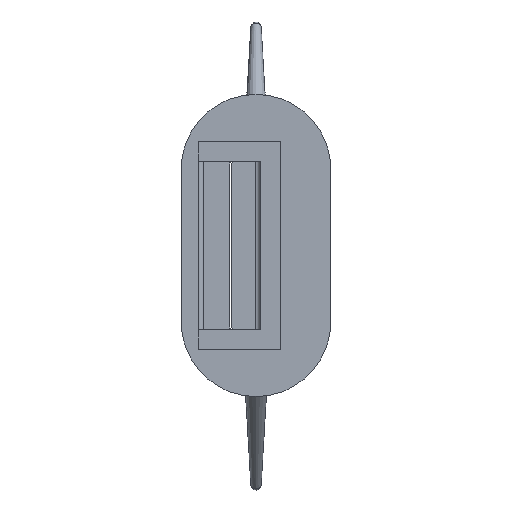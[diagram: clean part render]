
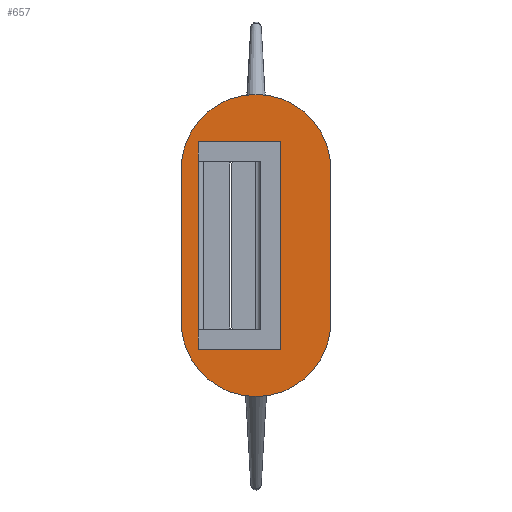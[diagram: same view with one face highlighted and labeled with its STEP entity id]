
A CAD part, left-side view. The second image highlights one B-rep face of the part: STEP entity #657.
In plain terms, the highlighted planar face has unit normal (-1, 0, 0).
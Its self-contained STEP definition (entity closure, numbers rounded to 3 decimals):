
#26=FACE_BOUND('',#111,.T.);
#44=PLANE('',#725);
#71=FACE_OUTER_BOUND('',#110,.T.);
#110=EDGE_LOOP('',(#518,#519,#520,#521));
#111=EDGE_LOOP('',(#522,#523,#524,#525,#526,#527));
#148=LINE('',#1032,#204);
#162=LINE('',#1069,#218);
#164=LINE('',#1091,#220);
#165=LINE('',#1093,#221);
#166=LINE('',#1095,#222);
#167=LINE('',#1097,#223);
#168=LINE('',#1098,#224);
#169=LINE('',#1099,#225);
#204=VECTOR('',#811,10.);
#218=VECTOR('',#845,10.);
#220=VECTOR('',#855,10.);
#221=VECTOR('',#856,10.);
#222=VECTOR('',#857,10.);
#223=VECTOR('',#858,10.);
#224=VECTOR('',#859,10.);
#225=VECTOR('',#860,10.);
#256=CIRCLE('',#708,7.5);
#264=CIRCLE('',#723,7.5);
#296=VERTEX_POINT('',#1024);
#297=VERTEX_POINT('',#1026);
#298=VERTEX_POINT('',#1030);
#303=VERTEX_POINT('',#1044);
#310=VERTEX_POINT('',#1064);
#311=VERTEX_POINT('',#1068);
#312=VERTEX_POINT('',#1090);
#313=VERTEX_POINT('',#1092);
#314=VERTEX_POINT('',#1094);
#315=VERTEX_POINT('',#1096);
#364=EDGE_CURVE('',#296,#297,#256,.T.);
#367=EDGE_CURVE('',#296,#298,#148,.T.);
#385=EDGE_CURVE('',#311,#297,#162,.T.);
#387=EDGE_CURVE('',#311,#298,#264,.T.);
#389=EDGE_CURVE('',#312,#310,#164,.T.);
#390=EDGE_CURVE('',#313,#312,#165,.T.);
#391=EDGE_CURVE('',#313,#314,#166,.T.);
#392=EDGE_CURVE('',#315,#314,#167,.T.);
#393=EDGE_CURVE('',#303,#315,#168,.T.);
#394=EDGE_CURVE('',#310,#303,#169,.T.);
#518=ORIENTED_EDGE('',*,*,#364,.F.);
#519=ORIENTED_EDGE('',*,*,#367,.T.);
#520=ORIENTED_EDGE('',*,*,#387,.F.);
#521=ORIENTED_EDGE('',*,*,#385,.T.);
#522=ORIENTED_EDGE('',*,*,#389,.F.);
#523=ORIENTED_EDGE('',*,*,#390,.F.);
#524=ORIENTED_EDGE('',*,*,#391,.T.);
#525=ORIENTED_EDGE('',*,*,#392,.F.);
#526=ORIENTED_EDGE('',*,*,#393,.F.);
#527=ORIENTED_EDGE('',*,*,#394,.F.);
#657=ADVANCED_FACE('',(#71,#26),#44,.F.);
#708=AXIS2_PLACEMENT_3D('',#1027,#803,#804);
#723=AXIS2_PLACEMENT_3D('',#1086,#848,#849);
#725=AXIS2_PLACEMENT_3D('',#1089,#853,#854);
#803=DIRECTION('center_axis',(1.,0.,0.));
#804=DIRECTION('ref_axis',(0.,-1.,0.));
#811=DIRECTION('',(0.,0.,1.));
#845=DIRECTION('',(0.,0.,-1.));
#848=DIRECTION('center_axis',(1.,0.,0.));
#849=DIRECTION('ref_axis',(0.,1.,0.));
#853=DIRECTION('center_axis',(1.,0.,0.));
#854=DIRECTION('ref_axis',(0.,1.,0.));
#855=DIRECTION('',(0.,0.,-1.));
#856=DIRECTION('',(0.,1.,0.));
#857=DIRECTION('',(0.,0.,-1.));
#858=DIRECTION('',(0.,-1.,0.));
#859=DIRECTION('',(0.,0.,-1.));
#860=DIRECTION('',(0.,0.,-1.));
#1024=CARTESIAN_POINT('',(-42.663,10.967,-54.771));
#1026=CARTESIAN_POINT('',(-42.663,25.967,-54.771));
#1027=CARTESIAN_POINT('Origin',(-42.663,18.467,-54.771));
#1030=CARTESIAN_POINT('',(-42.663,10.967,-39.531));
#1032=CARTESIAN_POINT('',(-42.663,10.967,-54.771));
#1044=CARTESIAN_POINT('',(-42.663,24.267,-55.571));
#1064=CARTESIAN_POINT('',(-42.663,24.267,-38.731));
#1068=CARTESIAN_POINT('',(-42.663,25.967,-39.531));
#1069=CARTESIAN_POINT('',(-42.663,25.967,-39.531));
#1086=CARTESIAN_POINT('Origin',(-42.663,18.467,-39.531));
#1089=CARTESIAN_POINT('Origin',(-42.663,18.467,-47.151));
#1090=CARTESIAN_POINT('',(-42.663,24.267,-36.731));
#1091=CARTESIAN_POINT('',(-42.663,24.267,-36.731));
#1092=CARTESIAN_POINT('',(-42.663,16.045,-36.731));
#1093=CARTESIAN_POINT('',(-42.663,16.045,-36.731));
#1094=CARTESIAN_POINT('',(-42.663,16.045,-57.571));
#1095=CARTESIAN_POINT('',(-42.663,16.045,-36.731));
#1096=CARTESIAN_POINT('',(-42.663,24.267,-57.571));
#1097=CARTESIAN_POINT('',(-42.663,24.267,-57.571));
#1098=CARTESIAN_POINT('',(-42.663,24.267,-55.571));
#1099=CARTESIAN_POINT('',(-42.663,24.267,-36.731));
